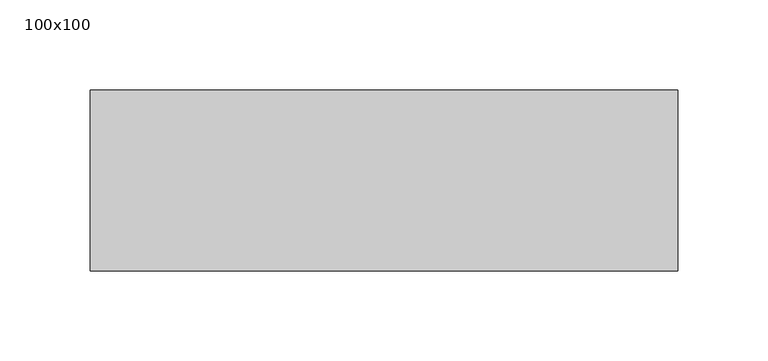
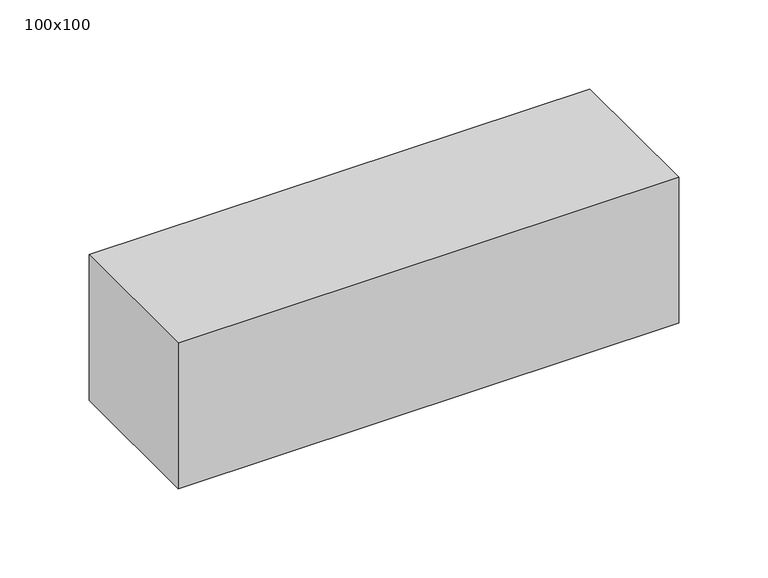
"""IFC4 building model written with IfcOpenShell, lengths in millimetres: beam geometry, Graded Timber : 100x100."""

from ifc_helpers import new_model, si_unit, frame, origin, place, context, project, spatial, polyline, outline, extrude, source, transform, mapped, element, save


def beam_100x100_d69ae5f3(model_context):
    return source(origin(), model_context, "Body", "SweptSolid", [
        extrude(outline(polyline([(192.6703709, 50.0), (192.6703709, -50.0), (-132.3296291, -50.0), (-132.3296291, 50.0), (192.6703709, 50.0)])), frame((0.0, 0.0, -50.0), z_axis=(0.0, 0.0, 1.0), x_axis=(1.0, 0.0, 0.0)), (0.0, 0.0, 1.0), 100.0),
    ])


if __name__ == "__main__":
    model = new_model("IFC4")
    model_context = context("Model", 3, world=origin())
    ifc_project = project(units=[si_unit("LENGTHUNIT", "METRE", prefix="MILLI")], contexts=[model_context])
    site = spatial("IfcSite", under=ifc_project)
    building = spatial("IfcBuilding", under=site)
    placement = place(None, origin())
    beam_100x100_shape = beam_100x100_d69ae5f3(model_context)
    element("IfcBeam", 1, ObjectType="Graded Timber : 100x100", at=placement, inside=building, context=model_context, shape_type="MappedRepresentation", body=[
        mapped(beam_100x100_shape, transform((0.0, 0.0, 0.0), x_axis=(1.0, 0.0, 0.0), y_axis=(0.0, 1.0, 0.0), z_axis=(0.0, 0.0, 1.0))),
    ])
    save(model, "model.ifc")
